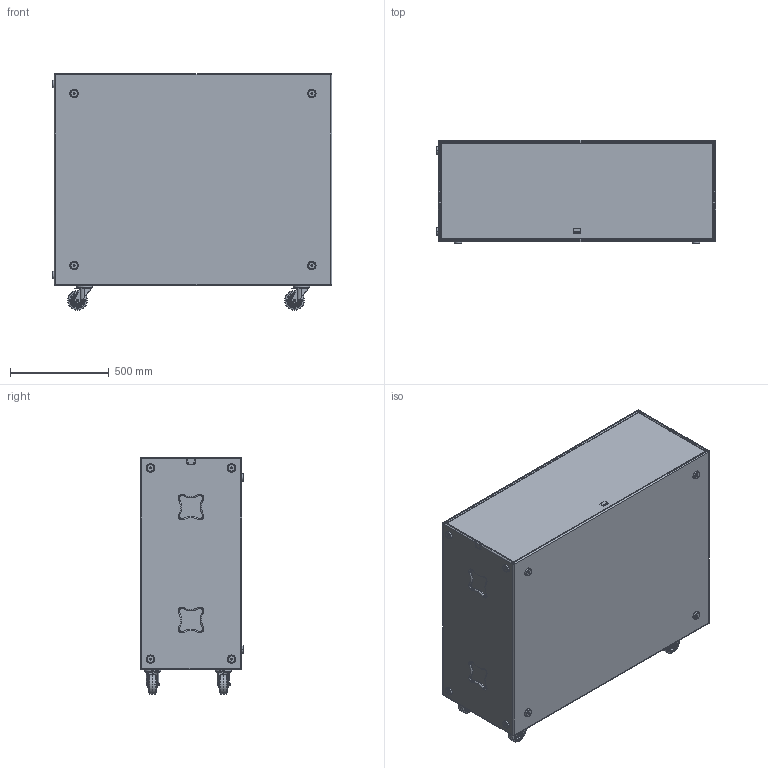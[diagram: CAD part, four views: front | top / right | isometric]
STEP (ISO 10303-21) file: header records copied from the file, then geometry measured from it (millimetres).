
FILE_DESCRIPTION (( 'STEP AP203' ), '1' );
FILE_NAME ('Seeburg_TSE-infra.STEP', '2012-10-17T12:09:49', ( 'Fabian' ), ( '' ), 'SwSTEP 2.0', 'SolidWorks 2009', '' );
FILE_SCHEMA (( 'CONFIG_CONTROL_DESIGN' ));
Length unit declared in the file: millimetre
Products named in the file (40): Imported4; Imported5; Imported6; Imported7; Imported10; Imported11; Imported12; Imported13; Imported17; Imported18; Imported19; Imported20; Imported24; Imported25; Imported26; Imported27; Imported30; Imported31; Imported32; Imported33; Imported37; Imported3; Imported2; Imported8; Imported9; Imported15; Imported14; Imported16; Imported21; Imported23; Imported22; Imported28; Imported29; Imported34; Imported35; Imported36; Seeburg_TSE-infra; TSE-infra; Imported; Imported1
Assembly tree (39 placements, depth 3):
  Seeburg_TSE-infra
    TSE-infra
      Imported9
      Imported6
      Imported25
      Imported32
      Imported36
      Imported17
      Imported15
      Imported28
      Imported14
      Imported29
      Imported30
      Imported8
      Imported26
      Imported10
      Imported22
      Imported27
      Imported35
      Imported13
      Imported21
      Imported18
      Imported2
      Imported4
      Imported37
      Imported1
      Imported11
      Imported33
      Imported34
      Imported
      Imported5
      Imported12
      Imported16
      Imported31
      Imported3
      Imported20
      Imported7
      Imported19
      Imported23
      Imported24
Bounding box: 1412 x 522 x 1196.06 mm (x, y, z)
Volume: 80096319.5 mm3; surface area: 11959445.7 mm2
Topology: 46 solids, 46 shells, 2142 faces, 5453 edges, 3366 vertices
Faces by surface type: cylinder 670, plane 590, torus 504, cone 282, sphere 80, bspline 16
Entity records: 81001 total; most frequent: CARTESIAN_POINT 25432, DIRECTION 11563, ORIENTED_EDGE 10442, EDGE_CURVE 5221, AXIS2_PLACEMENT_3D 4773, VERTEX_POINT 3254, CIRCLE 2604, EDGE_LOOP 2383
